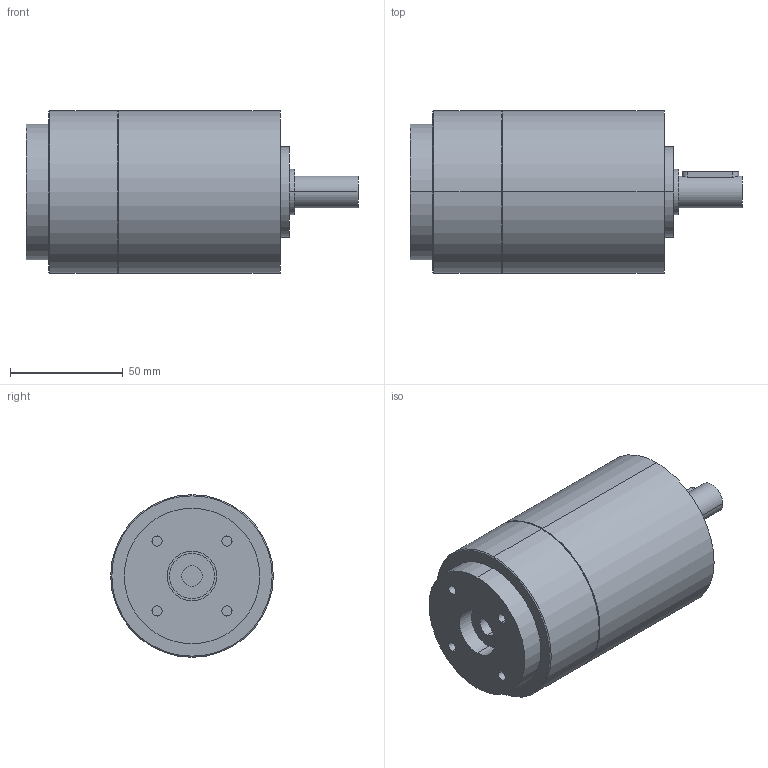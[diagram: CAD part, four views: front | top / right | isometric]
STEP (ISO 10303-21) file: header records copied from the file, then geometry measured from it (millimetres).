
FILE_DESCRIPTION(('CoCreate Modeling STEP Export'),'2;1');
FILE_NAME('GPT75_ig-9-12-16-20-25-28-35-40-50-70-100_14_B14T_9_P01.stp','2014-08-27T13:27:03',(''),(''),'CoCreate Modeling STEP processor for AP214 (Solid Model)','CoCreate Modeling 16.00C 25-Feb-2009 (C) Parametric Technology GmbH','');
FILE_SCHEMA(('AUTOMOTIVE_DESIGN { 1 0 10303 214 1 1 1 1 }'));
Length unit declared in the file: millimetre
Products named in the file (2): GPT75_ig-9-12-16-20-25-28-35-40-50-70-100_14_B14T_9_P01
Assembly tree (1 placements, depth 2):
  GPT75_ig-9-12-16-20-25-28-35-40-50-70-100_14_B14T_9_P01
    GPT75_ig-9-12-16-20-25-28-35-40-50-70-100_14_B14T_9_P01
Bounding box: 147 x 72 x 72 mm (x, y, z)
Volume: 449531.4 mm3; surface area: 38524.7 mm2
Topology: 1 solids, 1 shells, 64 faces, 142 edges, 97 vertices
Faces by surface type: cylinder 38, plane 22, cone 4
Entity records: 1883 total; most frequent: CARTESIAN_POINT 615, ORIENTED_EDGE 284, DIRECTION 212, EDGE_CURVE 142, VERTEX_POINT 97, AXIS2_PLACEMENT_3D 82, EDGE_LOOP 81, FACE_OUTER_BOUND 64
